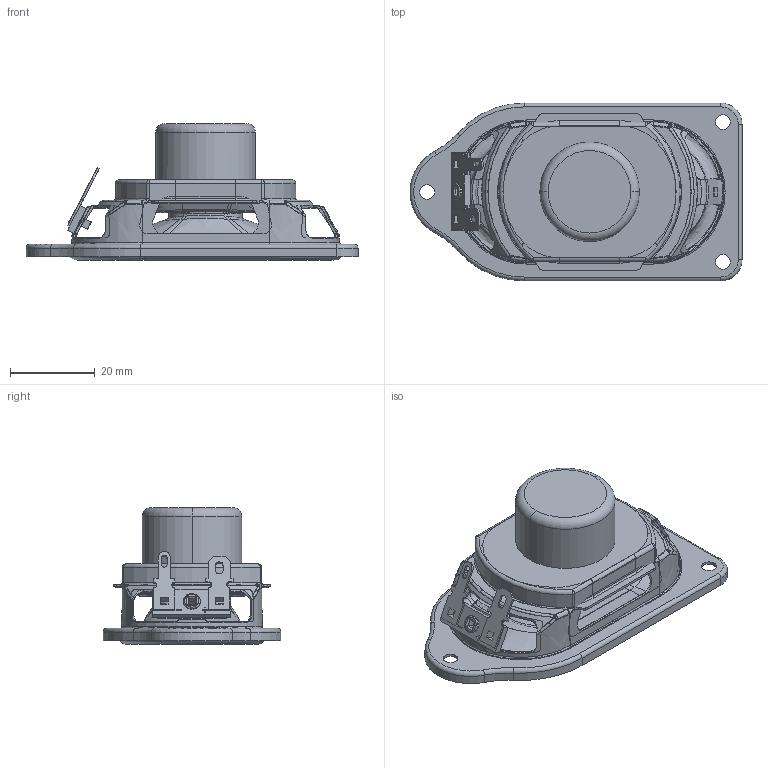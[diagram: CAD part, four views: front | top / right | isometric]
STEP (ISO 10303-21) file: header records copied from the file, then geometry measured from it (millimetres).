
FILE_DESCRIPTION((''),'2;1');
FILE_NAME('A_2SPK-0001285-IFRM-220325_ASM','2023-09-23T13:50:06',('54257'),(''),'CREO PARAMETRIC BY PTC INC, 2020053','CREO PARAMETRIC BY PTC INC, 2020053','');
FILE_SCHEMA(('CONFIG_CONTROL_DESIGN','SHAPE_APPEARANCE_LAYERS_GROUPS'));
Products named in the file (20): 41X71-IFRM_UYOK-0928_AS_3__ASM; 41X71-DMP--_1_1_2_1_2_1_1_1_; 41X71-0_6T-3D_ASM_1_2__ASM; PRT0002_1_2_1_2_1_1_1_; PRT0003_1_2_1_2_1_1_1_; PRT0004_1_2_1_2_1_1_1_; PRT0005_1_2_1_2_1_1_1_; PRT0006_1_2_1_2_1_1_1_; CH1_ASM_1_ASM__1_A__ASM; CON----41X71-0_2_3_1_2_3_1_1_; PRT0007_1_2_1_2_1_1_1_; UYOK-_1_1_2_1_2_1_2_2_; 2SPK-0001038_ASM_3_2__2__ASM; 41X71-3D_ASM_ASM_2_1_AS__ASM; 1314-0000127-0303_2_; 2SPK-0001085_ASM_21_AS__ASM; A2SPK-0001285-IFRM-3-25_; A2SPK-0001285-IFRM-V1; HA-16001; A_2SPK-0001285-IFRM-220325_ASM
Assembly tree (19 placements, depth 6):
  A_2SPK-0001285-IFRM-220325_ASM
    2SPK-0001085_ASM_21_AS__ASM
      41X71-3D_ASM_ASM_2_1_AS__ASM
        2SPK-0001038_ASM_3_2__2__ASM
          41X71-0_6T-3D_ASM_1_2__ASM
            41X71-IFRM_UYOK-0928_AS_3__ASM
            41X71-DMP--_1_1_2_1_2_1_1_1_
          CH1_ASM_1_ASM__1_A__ASM
            PRT0002_1_2_1_2_1_1_1_
            PRT0003_1_2_1_2_1_1_1_
            PRT0004_1_2_1_2_1_1_1_
            PRT0005_1_2_1_2_1_1_1_
            PRT0006_1_2_1_2_1_1_1_
          CON----41X71-0_2_3_1_2_3_1_1_
          PRT0007_1_2_1_2_1_1_1_
          UYOK-_1_1_2_1_2_1_2_2_
      1314-0000127-0303_2_
    A2SPK-0001285-IFRM-3-25_
    A2SPK-0001285-IFRM-V1
    HA-16001
Bounding box: 78.41 x 42 x 32.3 mm (x, y, z)
Volume: 13343.4 mm3; surface area: 37439.9 mm2
Topology: 13 solids, 13 shells, 1199 faces, 3107 edges, 1926 vertices
Faces by surface type: bspline 478, plane 265, cylinder 250, torus 126, cone 76, sphere 4
Entity records: 70914 total; most frequent: CARTESIAN_POINT 30791, ORIENTED_EDGE 6206, DIRECTION 4261, PRESENTATION_STYLE_ASSIGNMENT 3703, STYLED_ITEM 3703, EDGE_CURVE 3103, CURVE_STYLE 3013, VERTEX_POINT 1926
